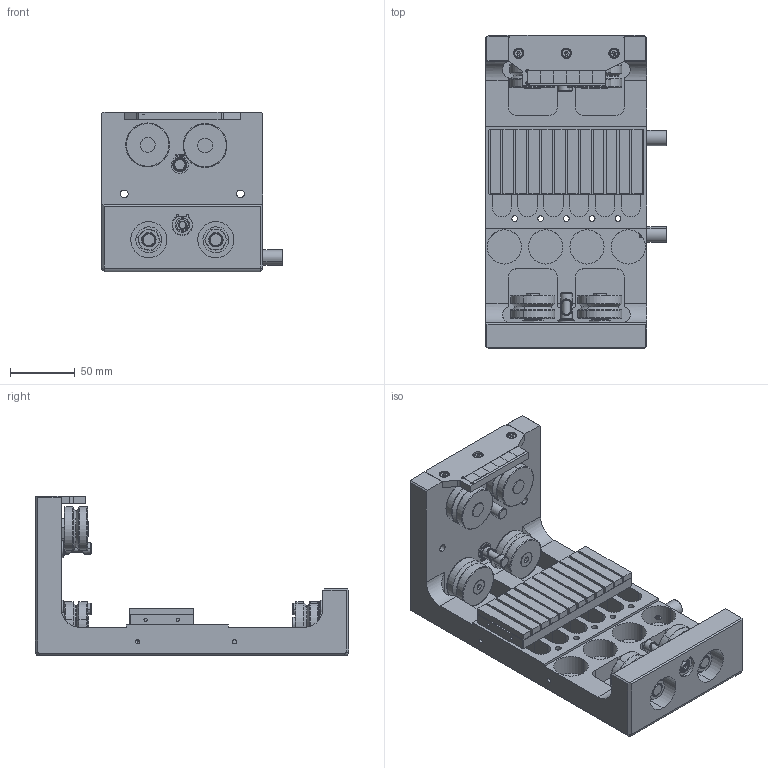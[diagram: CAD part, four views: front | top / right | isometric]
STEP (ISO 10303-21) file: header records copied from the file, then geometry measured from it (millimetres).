
FILE_DESCRIPTION (( 'STEP AP214' ), '1' );
FILE_NAME ('FTS-MT.SUB0904.STEP', '2025-02-21T05:15:15', ( '' ), ( '' ), 'SwSTEP 2.0', 'SolidWorks 2021', '' );
FILE_SCHEMA (( 'AUTOMOTIVE_DESIGN' ));
Length unit declared in the file: millimetre
Products named in the file (22): FTS-MT.SUB013.0003; SVR-34DRC+淏陑淕极幗謫+SAIBO; FTS-MT.SUB013.0001; L25xD6+海绵棒+国产; SVR-34DRDE+偏心整体滚轮+SAIBO; FTS-MT.SUB013; SVR-34FC+淏陑腹雄幗謫+SAIBO; M4x25-内六角圆柱头-全牙-A2-70+螺钉+国产; FTS-MT.SUB007.0002; FTS-MT.SUB0702; GB120 4x12+内螺纹圆柱定位销+国产; FTS-MT.SUB0904; FTS-MT.SUB009.0001; NBBKS12-15-M4+橡胶.热粘接减震材料.螺栓热粘接型+MISUMI; J-YWR-D6-L15+压缩弹簧.外径基准型.允许位移量Lx60%+怡合达; FTS-MT.SUB013.0002; S-DHYP001+磁钢-35SH-10mm×9.5mm×2mm+北京安泰; TAS32-11+孔用弹性挡圈SUS304.C型+怡合达; M4x8-内六角圆柱头-全牙-8.8级-不锈钢+螺钉+国产; D12xd10x1+硅胶密封圈+国产; DDL120-50-M+120mm×50mm磁板+上海会通; TAS02-11+轴用挡圈.SUS304.C型+怡合达
Assembly tree (44 placements, depth 3):
  FTS-MT.SUB0904
    DDL120-50-M+120mm×50mm磁板+上海会通
    FTS-MT.SUB009.0001
    M4x25-内六角圆柱头-全牙-A2-70+螺钉+国产  x10
    M4x8-内六角圆柱头-全牙-8.8级-不锈钢+螺钉+国产  x3
    NBBKS12-15-M4+橡胶.热粘接减震材料.螺栓热粘接型+MISUMI  x2
    SVR-34FC+淏陑腹雄幗謫+SAIBO  x2
    SVR-34DRDE+偏心整体滚轮+SAIBO  x2
    SVR-34DRC+淏陑淕极幗謫+SAIBO  x2
    GB120 4x12+内螺纹圆柱定位销+国产  x2
    FTS-MT.SUB0702
      FTS-MT.SUB007.0002
      S-DHYP001+磁钢-35SH-10mm×9.5mm×2mm+北京安泰  x6
    FTS-MT.SUB013  x3
      FTS-MT.SUB013.0001
      FTS-MT.SUB013.0002
      FTS-MT.SUB013.0003
      J-YWR-D6-L15+压缩弹簧.外径基准型.允许位移量Lx60%+怡合达
      TAS32-11+孔用弹性挡圈SUS304.C型+怡合达
      TAS02-11+轴用挡圈.SUS304.C型+怡合达
      D12xd10x1+硅胶密封圈+国产
      L25xD6+海绵棒+国产
Bounding box: 140 x 243 x 123.9 mm (x, y, z)
Volume: 844408.5 mm3; surface area: 270308.6 mm2
Topology: 63 solids, 77 shells, 2023 faces, 4736 edges, 2934 vertices
Faces by surface type: plane 796, cylinder 650, cone 384, bspline 107, torus 86
Entity records: 40001 total; most frequent: CARTESIAN_POINT 9301, DIRECTION 5440, ORIENTED_EDGE 5074, EDGE_CURVE 2557, AXIS2_PLACEMENT_3D 2120, VERTEX_POINT 1637, EDGE_LOOP 1281, LINE 1200
